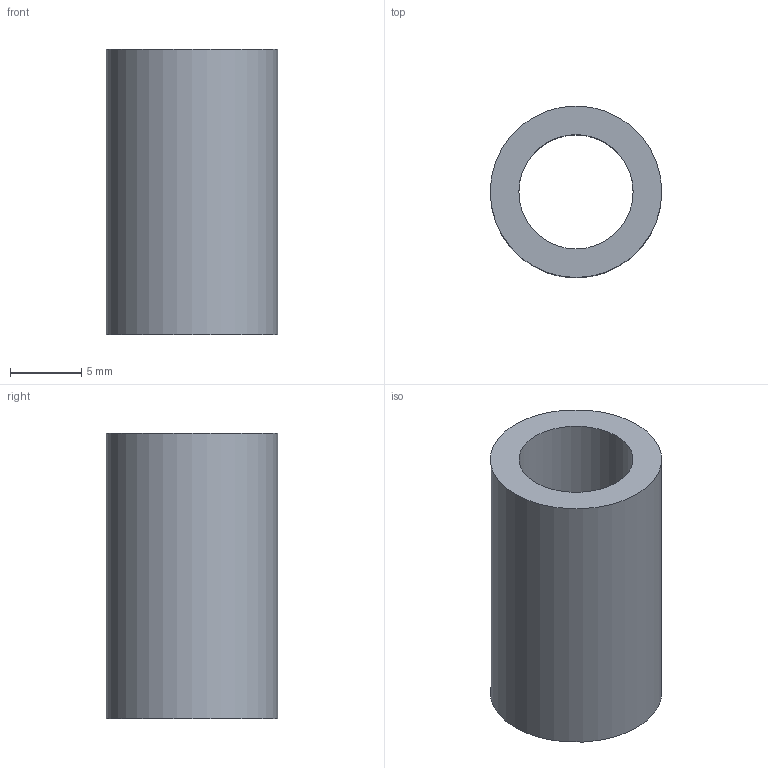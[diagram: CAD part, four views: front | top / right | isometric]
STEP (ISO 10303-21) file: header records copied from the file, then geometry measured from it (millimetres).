
FILE_DESCRIPTION(('Open CASCADE Model'),'2;1');
FILE_NAME('Open CASCADE Shape Model','2026-10-28T05:15:08',('Author'),( 'Open CASCADE'),'Open CASCADE STEP processor 7.8','Open CASCADE 7.8' ,'Unknown');
FILE_SCHEMA(('AUTOMOTIVE_DESIGN { 1 0 10303 214 1 1 1 1 }'));
Length unit declared in the file: millimetre
Products named in the file (1): Open CASCADE STEP translator 7.8 8
Bounding box: 12 x 12 x 20 mm (x, y, z)
Volume: 1256.6 mm3; surface area: 1382.3 mm2
Topology: 1 solids, 1 shells, 4 faces, 6 edges, 4 vertices
Faces by surface type: cylinder 2, plane 2
Full cylindrical faces by diameter (mm): 8 x1, 12 x1
Entity records: 186 total; most frequent: DIRECTION 32, CARTESIAN_POINT 27, ORIENTED_EDGE 12, PCURVE 12, DEFINITIONAL_REPRESENTATION 12, LINE 10, VECTOR 10, AXIS2_PLACEMENT_3D 9
